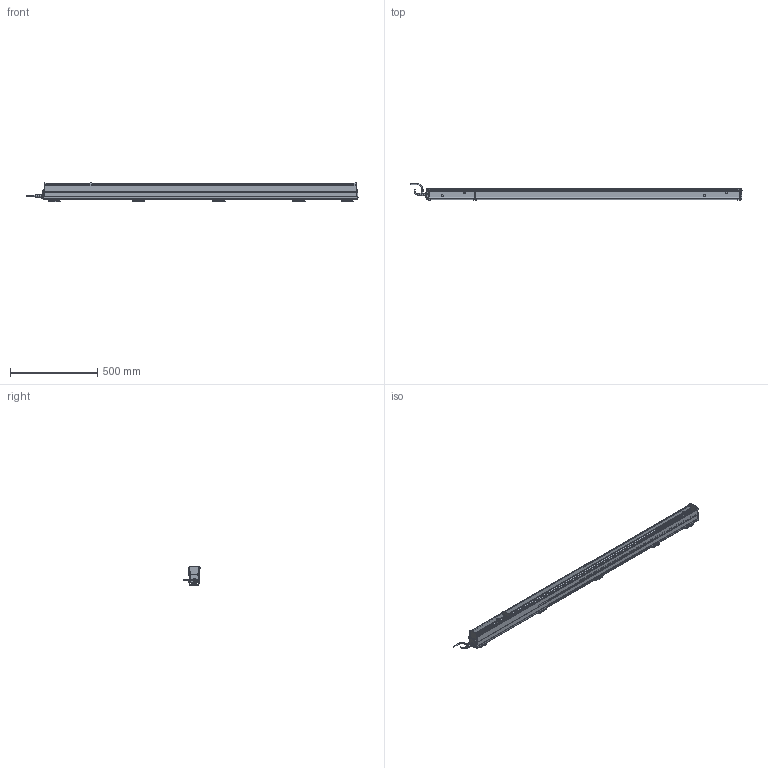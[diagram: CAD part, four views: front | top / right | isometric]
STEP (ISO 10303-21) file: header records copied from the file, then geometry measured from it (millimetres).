
FILE_DESCRIPTION(/* description */ (''),/* implementation_level */ '2;1');
FILE_NAME(/* name */ 'THUNDERION2_3D_1625-1820',/* time_stamp */ '2017-09-28T10:56:44+02:00',/* author */ (''),/* organization */ (''),/* preprocessor_version */ 'ST-DEVELOPER v15.7',/* originating_system */ 'HiCAD 2015 2002.1 Build 408',/* authorisation */ '');
FILE_SCHEMA (('AUTOMOTIVE_DESIGN { 1 0 10303 214 1 1 1 1 }'));
Products named in the file (109): Root; -_ThunderION 1625/1820; -_Side profile; -_Bar; -_Connector straight; EXTRUDED SOLID_0; -_Cord; REVOLVED SOLID_1; REVOLVED SOLID_3; DIN 13-M12x1,5; -_Connector angled; REVOLVED SOLID_2; 4532000100_Mounting bracket bars; -_Side piece; -_Slide piece; -_Bracket small; DIN 13-M3; DIN 76-M3; -_Cable End; light pipe M; light pipe L; -_Cap CE; -_Stud M4; -_Connector M12 male 5 pole_1; -_Contacts; ABSR_1_2_1_1_Inner part; ABSR_1_2_1_2_Inner part; bus; Pg 9; -_Ring tongue terminal; 9230000020_Nut M4; GEWINDE; 9240100020_Spring washer M4; ISO 7051-ST3.5x9.5-C-H_Tapping screws_0; -_Fill; -_Dead end; -_Cap DE; -_Emitter; -_Support Side Profile; -_End Plate
Assembly tree (108 placements, depth 6):
  Root
    -_ThunderION 1625/1820
      -_Side profile
      -_Side profile
      -_Bar
      -_Connector straight
        EXTRUDED SOLID_0
        -_Cord
        REVOLVED SOLID_1
        REVOLVED SOLID_3
          DIN 13-M12x1,5
      -_Connector angled
        REVOLVED SOLID_1
        EXTRUDED SOLID_0
        -_Cord
        REVOLVED SOLID_2
        REVOLVED SOLID_3
          DIN 13-M12x1,5
      4532000100_Mounting bracket bars
        -_Side piece
        -_Side piece
        -_Slide piece
        -_Bracket small
          DIN 13-M3
          DIN 13-M3
          DIN 76-M3
          DIN 76-M3
      4532000100_Mounting bracket bars
        -_Side piece
        -_Side piece
        -_Slide piece
        -_Bracket small
          DIN 13-M3
          DIN 13-M3
          DIN 76-M3
          DIN 76-M3
      4532000100_Mounting bracket bars
        -_Side piece
        -_Side piece
        -_Slide piece
        -_Bracket small
          DIN 13-M3
          DIN 13-M3
          DIN 76-M3
          DIN 76-M3
      4532000100_Mounting bracket bars
        -_Side piece
        -_Side piece
        -_Slide piece
        -_Bracket small
          DIN 13-M3
          DIN 13-M3
          DIN 76-M3
          DIN 76-M3
      4532000100_Mounting bracket bars
        -_Side piece
        -_Side piece
        -_Slide piece
        -_Bracket small
          DIN 13-M3
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Bounding box: 1898.34 x 92.24 x 113 mm (x, y, z)
Volume: 5767580.5 mm3; surface area: 1361961.2 mm2
Topology: 101 solids, 116 shells, 4832 faces, 12403 edges, 7551 vertices
Faces by surface type: plane 2050, cylinder 1878, bspline 280, torus 241, sphere 214, cone 169
Full cylindrical faces by diameter (mm): 0.8 x10, 1 x10, 2.387 x20, 2.5 x1, 2.64 x16, 3 x40, 3.141 x2, 3.5 x8, 4 x26, 4.2 x3, 4.4 x1, 5 x4, 5.5 x25, 7.3 x8, 8 x2, 8.4 x2, 9 x6, 9.6 x1, 10 x2, 10.16 x1, 10.5 x2, 11 x4, 12 x5, 12.8 x1, 13.8 x4, 13.86 x1, 14.5 x3, 15.199 x1, 15.2 x1
Entity records: 292386 total; most frequent: CARTESIAN_POINT 84927, DIRECTION 23857, PRESENTATION_STYLE_ASSIGNMENT 23410, OVER_RIDING_STYLED_ITEM 23313, DRAUGHTING_PRE_DEFINED_CURVE_FONT 23276, CURVE_STYLE 23276, ORIENTED_EDGE 23276, EDGE_CURVE 11638
